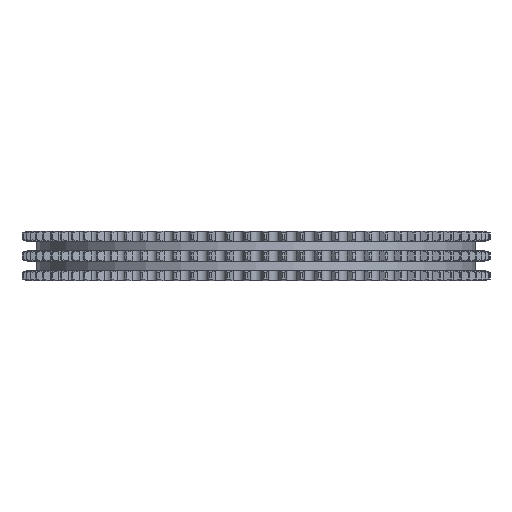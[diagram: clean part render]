
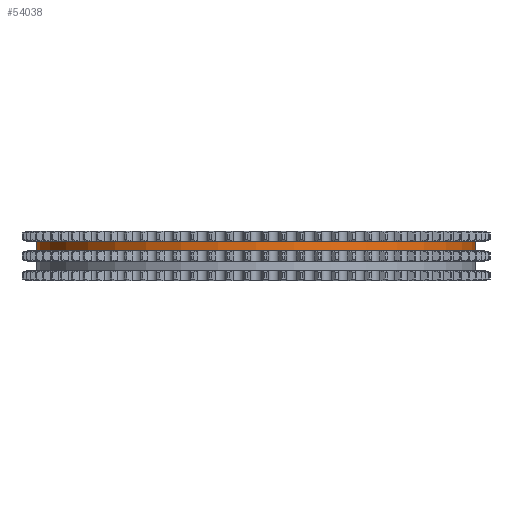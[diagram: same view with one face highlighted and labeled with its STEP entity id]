
A CAD part, left-side view. The second image highlights one B-rep face of the part: STEP entity #54038.
In plain terms, the highlighted cylindrical face has radius 153.743 mm (diameter 307.486 mm), a partial arc.
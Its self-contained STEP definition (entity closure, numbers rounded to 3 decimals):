
#9749=DIRECTION('',(0.,0.,-1.));
#9750=VECTOR('',#9749,6.65);
#9751=CARTESIAN_POINT('',(0.,153.743,10.25));
#9752=LINE('',#9751,#9750);
#9756=CARTESIAN_POINT('',(0.,0.,10.25));
#9757=DIRECTION('',(0.,0.,1.));
#9758=DIRECTION('',(0.,1.,0.));
#9759=AXIS2_PLACEMENT_3D('',#9756,#9757,#9758);
#9764=DIRECTION('',(0.,0.,-1.));
#9765=VECTOR('',#9764,6.65);
#9766=CARTESIAN_POINT('',(0.,-153.743,10.25));
#9767=LINE('',#9766,#9765);
#9771=CARTESIAN_POINT('',(0.,0.,3.6));
#9772=DIRECTION('',(0.,0.,1.));
#9773=DIRECTION('',(0.,1.,0.));
#9774=AXIS2_PLACEMENT_3D('',#9771,#9772,#9773);
#43856=CARTESIAN_POINT('',(0.,153.743,10.25));
#43857=CARTESIAN_POINT('',(0.,153.743,3.6));
#43858=VERTEX_POINT('',#43856);
#43859=VERTEX_POINT('',#43857);
#43860=CARTESIAN_POINT('',(0.,-153.743,10.25));
#43861=CARTESIAN_POINT('',(0.,-153.743,3.6));
#43862=VERTEX_POINT('',#43860);
#43863=VERTEX_POINT('',#43861);
#54026=CARTESIAN_POINT('',(0.,0.,11.275));
#54027=DIRECTION('',(0.,0.,-1.));
#54028=DIRECTION('',(0.,-1.,0.));
#54029=AXIS2_PLACEMENT_3D('',#54026,#54027,#54028);
#54030=CYLINDRICAL_SURFACE('',#54029,153.743);
#54031=ORIENTED_EDGE('',*,*,#54016,.F.);
#54032=ORIENTED_EDGE('',*,*,#54006,.T.);
#54033=ORIENTED_EDGE('',*,*,#54020,.T.);
#54035=ORIENTED_EDGE('',*,*,#54034,.F.);
#54036=EDGE_LOOP('',(#54031,#54032,#54033,#54035));
#54037=FACE_OUTER_BOUND('',#54036,.F.);
#54038=ADVANCED_FACE('',(#54037),#54030,.T.);
#9760=CIRCLE('',#9759,153.743);
#9775=CIRCLE('',#9774,153.743);
#54006=EDGE_CURVE('',#43858,#43862,#9760,.T.);
#54016=EDGE_CURVE('',#43858,#43859,#9752,.T.);
#54020=EDGE_CURVE('',#43862,#43863,#9767,.T.);
#54034=EDGE_CURVE('',#43859,#43863,#9775,.T.);
